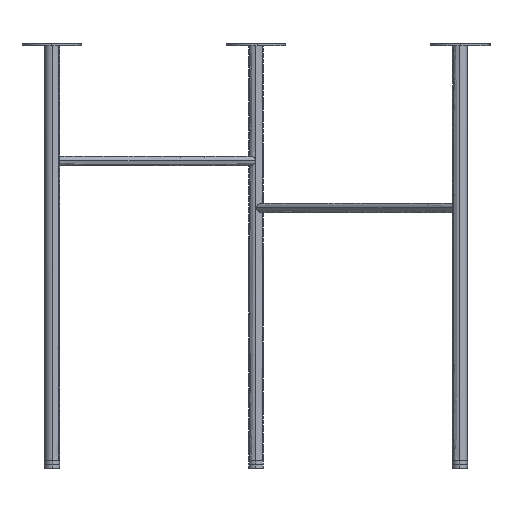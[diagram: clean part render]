
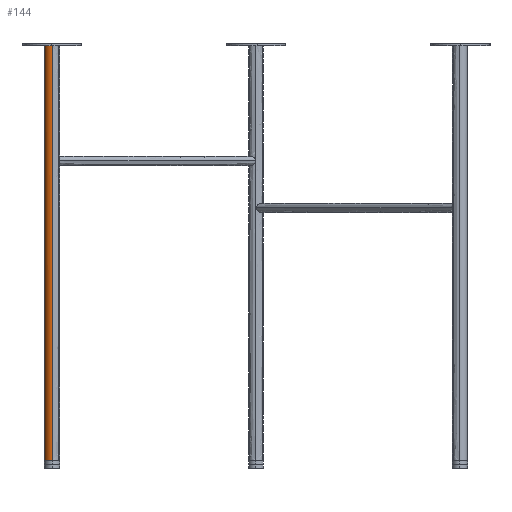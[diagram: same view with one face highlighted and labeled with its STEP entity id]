
A CAD part, left-side view. The second image highlights one B-rep face of the part: STEP entity #144.
In plain terms, the highlighted free-form (B-spline) face has degree [2, 1] with [5, 2] control points.
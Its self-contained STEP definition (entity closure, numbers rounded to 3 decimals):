
#144=ADVANCED_FACE('',(#320),#2632,.T.);
#320=FACE_OUTER_BOUND('',#508,.T.);
#508=EDGE_LOOP('',(#811,#812,#813,#814));
#811=ORIENTED_EDGE('',*,*,#1626,.T.);
#812=ORIENTED_EDGE('',*,*,#1551,.F.);
#813=ORIENTED_EDGE('',*,*,#1555,.F.);
#814=ORIENTED_EDGE('',*,*,#1627,.F.);
#1551=EDGE_CURVE('',#2329,#2379,#2012,.T.);
#1555=EDGE_CURVE('',#2322,#2329,#2016,.T.);
#1626=EDGE_CURVE('',#2378,#2379,#2066,.T.);
#1627=EDGE_CURVE('',#2378,#2322,#2067,.T.);
#2012=(
BOUNDED_CURVE()
B_SPLINE_CURVE(2,(#3521,#3522,#3523,#3524,#3525),.UNSPECIFIED.,.F.,.F.)
B_SPLINE_CURVE_WITH_KNOTS((3,2,3),(0.,19.635,39.27),
 .UNSPECIFIED.)
CURVE()
GEOMETRIC_REPRESENTATION_ITEM()
RATIONAL_B_SPLINE_CURVE((1.,0.707,1.,0.707,1.))
REPRESENTATION_ITEM('')
);
#2016=(
BOUNDED_CURVE()
B_SPLINE_CURVE(1,(#3538,#3539),.UNSPECIFIED.,.F.,.F.)
B_SPLINE_CURVE_WITH_KNOTS((2,2),(3.483,700.),.UNSPECIFIED.)
CURVE()
GEOMETRIC_REPRESENTATION_ITEM()
RATIONAL_B_SPLINE_CURVE((1.,1.))
REPRESENTATION_ITEM('')
);
#2066=(
BOUNDED_CURVE()
B_SPLINE_CURVE(1,(#4102,#4103),.UNSPECIFIED.,.F.,.F.)
B_SPLINE_CURVE_WITH_KNOTS((2,2),(3.483,700.),.UNSPECIFIED.)
CURVE()
GEOMETRIC_REPRESENTATION_ITEM()
RATIONAL_B_SPLINE_CURVE((1.,1.))
REPRESENTATION_ITEM('')
);
#2067=(
BOUNDED_CURVE()
B_SPLINE_CURVE(2,(#4104,#4105,#4106,#4107,#4108),.UNSPECIFIED.,.F.,.F.)
B_SPLINE_CURVE_WITH_KNOTS((3,2,3),(39.27,58.905,78.54),
 .UNSPECIFIED.)
CURVE()
GEOMETRIC_REPRESENTATION_ITEM()
RATIONAL_B_SPLINE_CURVE((1.,0.707,1.,0.707,1.))
REPRESENTATION_ITEM('')
);
#2322=VERTEX_POINT('',#3357);
#2329=VERTEX_POINT('',#3364);
#2378=VERTEX_POINT('',#3413);
#2379=VERTEX_POINT('',#3414);
#2632=(
BOUNDED_SURFACE()
B_SPLINE_SURFACE(2,1,((#2952,#2953),(#2954,#2955),(#2956,#2957),(#2958,
#2959),(#2960,#2961)),.UNSPECIFIED.,.F.,.F.,.F.)
B_SPLINE_SURFACE_WITH_KNOTS((3,2,3),(2,2),(0.,19.635,39.27),
(0.,700.),.UNSPECIFIED.)
GEOMETRIC_REPRESENTATION_ITEM()
RATIONAL_B_SPLINE_SURFACE(((1.,1.),(0.707,0.707),
(1.,1.),(0.707,0.707),(1.,1.)))
REPRESENTATION_ITEM('')
SURFACE()
);
#2952=CARTESIAN_POINT('',(-10645.052,1069.187,909.475));
#2953=CARTESIAN_POINT('',(-10645.052,1069.187,205.975));
#2954=CARTESIAN_POINT('',(-10645.052,1081.687,909.475));
#2955=CARTESIAN_POINT('',(-10645.052,1081.687,205.975));
#2956=CARTESIAN_POINT('',(-10632.552,1081.687,909.475));
#2957=CARTESIAN_POINT('',(-10632.552,1081.687,205.975));
#2958=CARTESIAN_POINT('',(-10620.052,1081.687,909.475));
#2959=CARTESIAN_POINT('',(-10620.052,1081.687,205.975));
#2960=CARTESIAN_POINT('',(-10620.052,1069.187,909.475));
#2961=CARTESIAN_POINT('',(-10620.052,1069.187,205.975));
#3357=CARTESIAN_POINT('',(-10645.052,1069.187,905.975));
#3364=CARTESIAN_POINT('',(-10645.052,1069.187,205.975));
#3413=CARTESIAN_POINT('',(-10620.052,1069.187,905.975));
#3414=CARTESIAN_POINT('',(-10620.052,1069.187,205.975));
#3521=CARTESIAN_POINT('',(-10645.052,1069.187,205.975));
#3522=CARTESIAN_POINT('',(-10645.052,1081.687,205.975));
#3523=CARTESIAN_POINT('',(-10632.552,1081.687,205.975));
#3524=CARTESIAN_POINT('',(-10620.052,1081.687,205.975));
#3525=CARTESIAN_POINT('',(-10620.052,1069.187,205.975));
#3538=CARTESIAN_POINT('',(-10645.052,1069.187,905.975));
#3539=CARTESIAN_POINT('',(-10645.052,1069.187,205.975));
#4102=CARTESIAN_POINT('',(-10620.052,1069.187,905.975));
#4103=CARTESIAN_POINT('',(-10620.052,1069.187,205.975));
#4104=CARTESIAN_POINT('',(-10620.052,1069.187,905.975));
#4105=CARTESIAN_POINT('',(-10620.052,1081.687,905.975));
#4106=CARTESIAN_POINT('',(-10632.552,1081.687,905.975));
#4107=CARTESIAN_POINT('',(-10645.052,1081.687,905.975));
#4108=CARTESIAN_POINT('',(-10645.052,1069.187,905.975));
